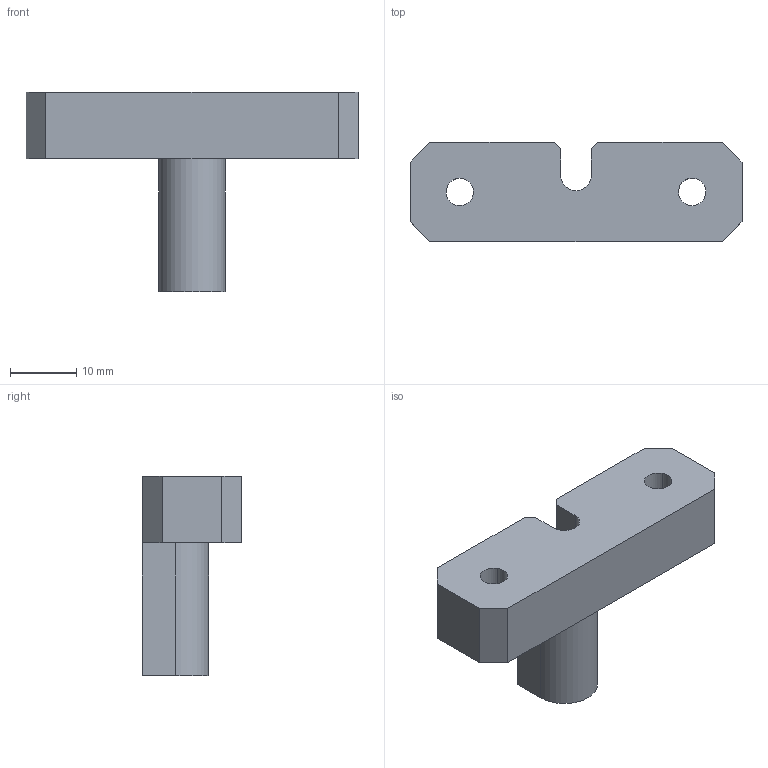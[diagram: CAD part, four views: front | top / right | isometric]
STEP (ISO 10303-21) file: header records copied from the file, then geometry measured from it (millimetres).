
FILE_DESCRIPTION(('CATIA V5 STEP Exchange'),'2;1');
FILE_NAME('D:\姚明阳\1、工装图纸\AGZ131\AGZ132.10_V1.stp','2025-02-06T03:56:00+00:00',('none'),('none'),'CATIA Version 5 Release 20 GA (IN-10)','CATIA V5 STEP AP203','none');
FILE_SCHEMA(('CONFIG_CONTROL_DESIGN'));
Length unit declared in the file: millimetre
Products named in the file (1): AGZ132.10.V1
Bounding box: 50 x 15 x 30 mm (x, y, z)
Volume: 7867.7 mm3; surface area: 3892.9 mm2
Topology: 1 solids, 1 shells, 24 faces, 66 edges, 44 vertices
Faces by surface type: plane 18, cylinder 6
Entity records: 785 total; most frequent: CARTESIAN_POINT 132, ORIENTED_EDGE 132, DIRECTION 108, EDGE_CURVE 66, VECTOR 54, LINE 54, VERTEX_POINT 44, AXIS2_PLACEMENT_3D 34
